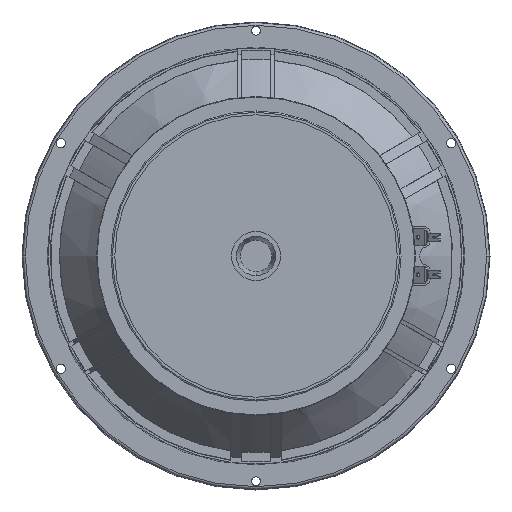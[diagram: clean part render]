
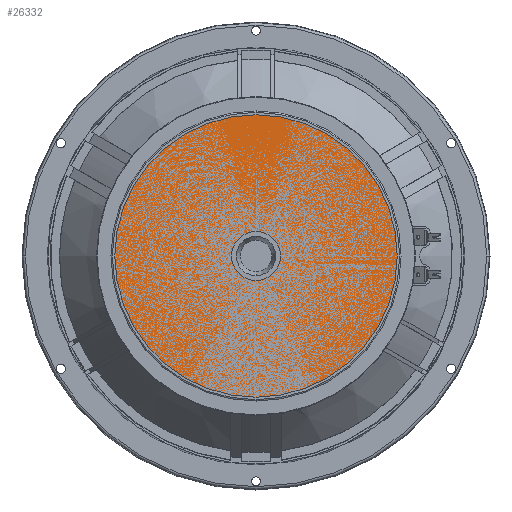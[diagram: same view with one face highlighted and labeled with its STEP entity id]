
A CAD part, front view. The second image highlights one B-rep face of the part: STEP entity #26332.
In plain terms, the highlighted planar face has unit normal (0, -1, 0).
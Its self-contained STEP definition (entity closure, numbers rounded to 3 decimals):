
#314 = VERTEX_POINT ( 'NONE', #16676 ) ;
#1749 = CARTESIAN_POINT ( 'NONE',  ( 0., 0., 0. ) ) ;
#2484 = FACE_BOUND ( 'NONE', #6285, .T. ) ;
#5812 = AXIS2_PLACEMENT_3D ( 'NONE', #8969, #29592, #6451 ) ;
#6206 = DIRECTION ( 'NONE',  ( 0., 1., 0. ) ) ;
#6253 = CARTESIAN_POINT ( 'NONE',  ( 0., 0., 53.55 ) ) ;
#6285 = EDGE_LOOP ( 'NONE', ( #23878, #20271 ) ) ;
#6451 = DIRECTION ( 'NONE',  ( 0., 0., 1. ) ) ;
#7488 = CIRCLE ( 'NONE', #11766, 53.55 ) ;
#7798 = AXIS2_PLACEMENT_3D ( 'NONE', #7884, #28497, #12762 ) ;
#7884 = CARTESIAN_POINT ( 'NONE',  ( 0., 0., -9.247 ) ) ;
#8638 = EDGE_CURVE ( 'NONE', #314, #28032, #27944, .T. ) ;
#8748 = ORIENTED_EDGE ( 'NONE', *, *, #9679, .F. ) ;
#8969 = CARTESIAN_POINT ( 'NONE',  ( 0., 0., 0. ) ) ;
#9679 = EDGE_CURVE ( 'NONE', #28032, #314, #7488, .T. ) ;
#9803 = AXIS2_PLACEMENT_3D ( 'NONE', #1749, #32704, #32853 ) ;
#10232 = CARTESIAN_POINT ( 'NONE',  ( 0., 0., 9.247 ) ) ;
#11766 = AXIS2_PLACEMENT_3D ( 'NONE', #24425, #6206, #13923 ) ;
#12762 = DIRECTION ( 'NONE',  ( 0., 0., 1. ) ) ;
#13007 = CARTESIAN_POINT ( 'NONE',  ( 0., 0., 0. ) ) ;
#13923 = DIRECTION ( 'NONE',  ( 0., 0., 1. ) ) ;
#16178 = CARTESIAN_POINT ( 'NONE',  ( 0., 0., -9.247 ) ) ;
#16676 = CARTESIAN_POINT ( 'NONE',  ( 0., 0., -53.55 ) ) ;
#17688 = AXIS2_PLACEMENT_3D ( 'NONE', #13007, #22829, #23339 ) ;
#17991 = PLANE ( 'NONE',  #7798 ) ;
#20271 = ORIENTED_EDGE ( 'NONE', *, *, #33174, .T. ) ;
#20510 = FACE_OUTER_BOUND ( 'NONE', #25870, .T. ) ;
#22829 = DIRECTION ( 'NONE',  ( 0., 1., 0. ) ) ;
#23339 = DIRECTION ( 'NONE',  ( 0., 0., 1. ) ) ;
#23878 = ORIENTED_EDGE ( 'NONE', *, *, #25139, .T. ) ;
#24392 = CIRCLE ( 'NONE', #9803, 9.247 ) ;
#24425 = CARTESIAN_POINT ( 'NONE',  ( 0., 0., 0. ) ) ;
#25035 = ORIENTED_EDGE ( 'NONE', *, *, #8638, .F. ) ;
#25043 = VERTEX_POINT ( 'NONE', #10232 ) ;
#25139 = EDGE_CURVE ( 'NONE', #28004, #25043, #24392, .T. ) ;
#25870 = EDGE_LOOP ( 'NONE', ( #8748, #25035 ) ) ;
#26332 = ADVANCED_FACE ( 'NONE', ( #20510, #2484 ), #17991, .F. ) ;
#27944 = CIRCLE ( 'NONE', #5812, 53.55 ) ;
#28004 = VERTEX_POINT ( 'NONE', #16178 ) ;
#28032 = VERTEX_POINT ( 'NONE', #6253 ) ;
#28497 = DIRECTION ( 'NONE',  ( 0., 1., 0. ) ) ;
#29592 = DIRECTION ( 'NONE',  ( 0., 1., 0. ) ) ;
#32704 = DIRECTION ( 'NONE',  ( 0., 1., 0. ) ) ;
#32853 = DIRECTION ( 'NONE',  ( 0., 0., 1. ) ) ;
#33174 = EDGE_CURVE ( 'NONE', #25043, #28004, #33374, .T. ) ;
#33374 = CIRCLE ( 'NONE', #17688, 9.247 ) ;
